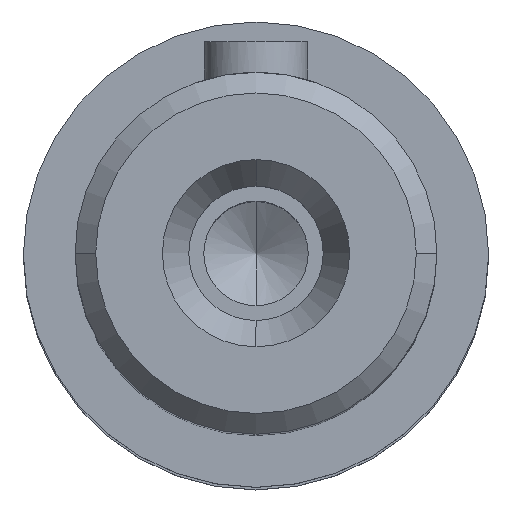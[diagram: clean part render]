
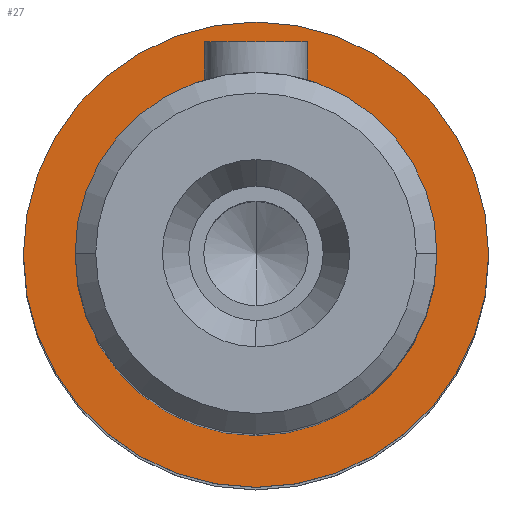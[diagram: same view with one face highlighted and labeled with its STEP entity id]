
A CAD part, top view. The second image highlights one B-rep face of the part: STEP entity #27.
In plain terms, the highlighted planar face has unit normal (0, 0, 1) as drawn and (1, 0, 0) by its records, which use the part's own axes.
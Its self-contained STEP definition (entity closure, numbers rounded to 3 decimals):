
#27=ADVANCED_FACE('',(#66,#54),#469,.T.);
#54=FACE_BOUND('',#103,.T.);
#66=FACE_OUTER_BOUND('',#102,.T.);
#102=EDGE_LOOP('',(#166,#167));
#103=EDGE_LOOP('',(#168,#169));
#166=ORIENTED_EDGE('',*,*,#308,.F.);
#167=ORIENTED_EDGE('',*,*,#271,.F.);
#168=ORIENTED_EDGE('',*,*,#297,.F.);
#169=ORIENTED_EDGE('',*,*,#260,.F.);
#260=EDGE_CURVE('',#423,#445,#320,.T.);
#271=EDGE_CURVE('',#431,#453,#327,.T.);
#297=EDGE_CURVE('',#445,#423,#340,.T.);
#308=EDGE_CURVE('',#453,#431,#347,.T.);
#320=TRIMMED_CURVE($,#354,(#984),(#985),.T.,.CARTESIAN.);
#327=TRIMMED_CURVE($,#361,(#1013),(#1014),.T.,.CARTESIAN.);
#340=TRIMMED_CURVE($,#374,(#1078),(#1079),.T.,.CARTESIAN.);
#347=TRIMMED_CURVE($,#381,(#1107),(#1108),.T.,.CARTESIAN.);
#354=CIRCLE('',#694,17.5);
#361=CIRCLE('',#701,22.5);
#374=CIRCLE('',#714,17.5);
#381=CIRCLE('',#721,22.5);
#423=VERTEX_POINT('',#925);
#431=VERTEX_POINT('',#933);
#445=VERTEX_POINT('',#947);
#453=VERTEX_POINT('',#955);
#469=PLANE('',#677);
#677=AXIS2_PLACEMENT_3D('',#843,#743,$);
#694=AXIS2_PLACEMENT_3D($,#983,#760,#761);
#701=AXIS2_PLACEMENT_3D($,#1012,#774,#775);
#714=AXIS2_PLACEMENT_3D($,#1077,#800,#801);
#721=AXIS2_PLACEMENT_3D($,#1106,#814,#815);
#743=DIRECTION('',(1.,0.,0.));
#760=DIRECTION('',(1.,0.,0.));
#761=DIRECTION('',(0.,0.,-1.));
#774=DIRECTION('',(-1.,0.,0.));
#775=DIRECTION('',(0.,0.,-1.));
#800=DIRECTION('',(1.,0.,0.));
#801=DIRECTION('',(0.,0.,1.));
#814=DIRECTION('',(-1.,0.,0.));
#815=DIRECTION('',(0.,0.,1.));
#843=CARTESIAN_POINT('',(74.5,-27.06,-27.06));
#925=CARTESIAN_POINT('',(74.5,0.,-17.5));
#933=CARTESIAN_POINT('',(74.5,0.,-22.5));
#947=CARTESIAN_POINT('',(74.5,0.,17.5));
#955=CARTESIAN_POINT('',(74.5,0.,22.5));
#983=CARTESIAN_POINT('',(74.5,0.,0.));
#984=CARTESIAN_POINT('',(74.5,0.,-17.5));
#985=CARTESIAN_POINT('',(74.5,0.,17.5));
#1012=CARTESIAN_POINT('',(74.5,0.,0.));
#1013=CARTESIAN_POINT('',(74.5,0.,-22.5));
#1014=CARTESIAN_POINT('',(74.5,0.,22.5));
#1077=CARTESIAN_POINT('',(74.5,0.,0.));
#1078=CARTESIAN_POINT('',(74.5,0.,17.5));
#1079=CARTESIAN_POINT('',(74.5,0.,-17.5));
#1106=CARTESIAN_POINT('',(74.5,0.,0.));
#1107=CARTESIAN_POINT('',(74.5,0.,22.5));
#1108=CARTESIAN_POINT('',(74.5,0.,-22.5));
